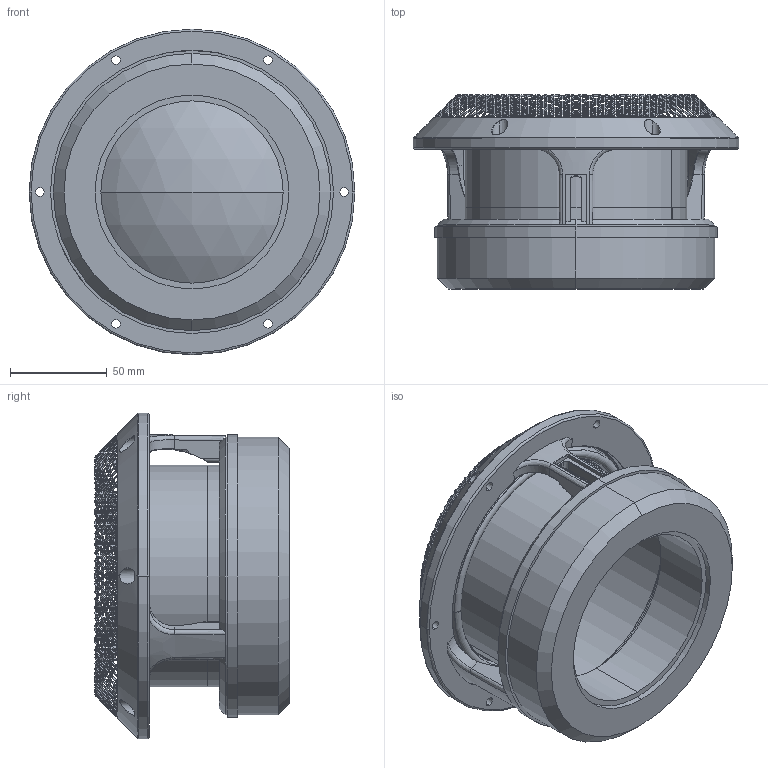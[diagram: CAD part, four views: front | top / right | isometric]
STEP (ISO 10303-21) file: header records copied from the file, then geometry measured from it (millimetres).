
FILE_DESCRIPTION (( 'STEP AP214' ), '1' );
FILE_NAME ('C168-06-890 mit Gitter.STEP', '2019-01-22T09:11:29', ( 'Thiel' ), ( '' ), 'SwSTEP 2.0', 'SolidWorks 2015', '' );
FILE_SCHEMA (( 'AUTOMOTIVE_DESIGN' ));
Length unit declared in the file: millimetre
Products named in the file (7): VC_Standard; MGS_Standard; KRB1_Standard; C168-06-890 mit Gitter; GIT_C168-890_Standard; CM_Standard; GUS_Standard
Assembly tree (6 placements, depth 2):
  C168-06-890 mit Gitter
    KRB1_Standard
    MGS_Standard
    VC_Standard
    GUS_Standard
    CM_Standard
    GIT_C168-890_Standard
Bounding box: 168 x 100.12 x 168 mm (x, y, z)
Volume: 421014.3 mm3; surface area: 191779.8 mm2
Topology: 6 solids, 6 shells, 8265 faces, 25801 edges, 17131 vertices
Faces by surface type: plane 7373, torus 411, cylinder 382, bspline 62, cone 27, sphere 10
Entity records: 310991 total; most frequent: CARTESIAN_POINT 78017, ORIENTED_EDGE 51598, DIRECTION 47647, EDGE_CURVE 25799, AXIS2_PLACEMENT_3D 19709, VERTEX_POINT 17131, CIRCLE 11497, EDGE_LOOP 10134
